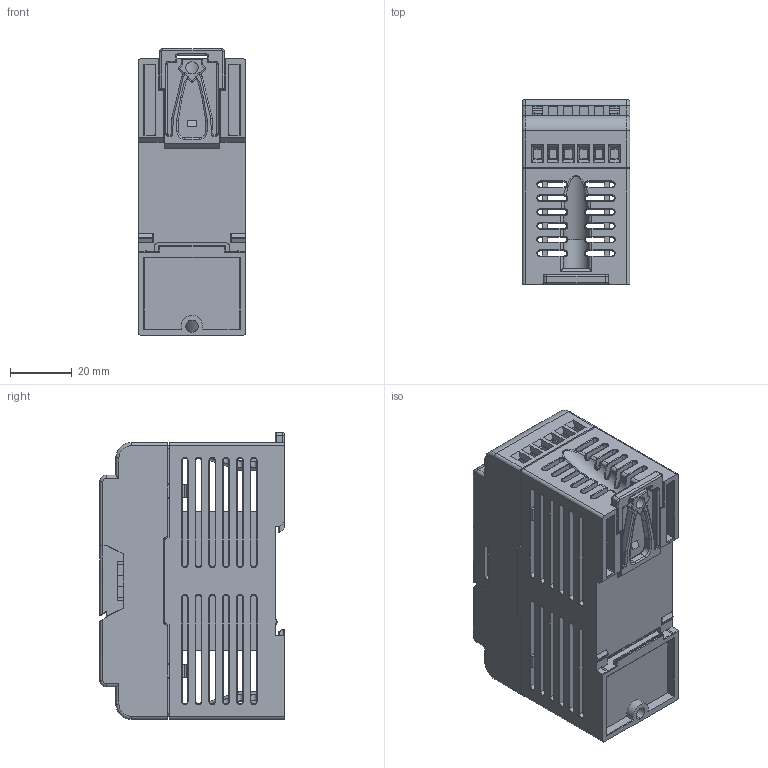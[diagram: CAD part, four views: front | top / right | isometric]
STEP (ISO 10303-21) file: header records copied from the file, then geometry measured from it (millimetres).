
FILE_DESCRIPTION((''),'2;1');
FILE_NAME('B1-8E-NEW_ASM','2021-06-09T',('Jacky Chang'),('ME Department of NTUST'),'PRO/ENGINEER BY PARAMETRIC TECHNOLOGY CORPORATION, 2014200','PRO/ENGINEER BY PARAMETRIC TECHNOLOGY CORPORATION, 2014200','');
FILE_SCHEMA(('CONFIG_CONTROL_DESIGN','GEOMETRIC_VALIDATION_PROPERTIES_MIM'));
Products named in the file (10): B1-8E_UP2_COVER; B1-8E_IO2_COVER; FB1-8E-PCB; FB0-8E_TERMINAL; CONNECTOR-10P; FB1-8E-PCB_ASM; B1-8E_DOWN_COVER; JOIN; B1-8E_DOWN_COVER_ASM; B1-8E-NEW_ASM
Assembly tree (11 placements, depth 3):
  B1-8E-NEW_ASM
    B1-8E_UP2_COVER
    B1-8E_IO2_COVER
    FB1-8E-PCB_ASM
      FB1-8E-PCB
      FB0-8E_TERMINAL  x2
      CONNECTOR-10P  x2
    B1-8E_DOWN_COVER_ASM
      B1-8E_DOWN_COVER
      JOIN
Bounding box: 35 x 60.1 x 93.25 mm (x, y, z)
Volume: 47905.5 mm3; surface area: 60717.2 mm2
Topology: 9 solids, 9 shells, 2058 faces, 5689 edges, 3556 vertices
Faces by surface type: plane 1252, cylinder 541, torus 150, bspline 92, sphere 23
Entity records: 85374 total; most frequent: CARTESIAN_POINT 18595, ORIENTED_EDGE 10664, DIRECTION 9790, PRESENTATION_STYLE_ASSIGNMENT 5426, STYLED_ITEM 5339, CURVE_STYLE 5332, EDGE_CURVE 5332, VECTOR 3822
